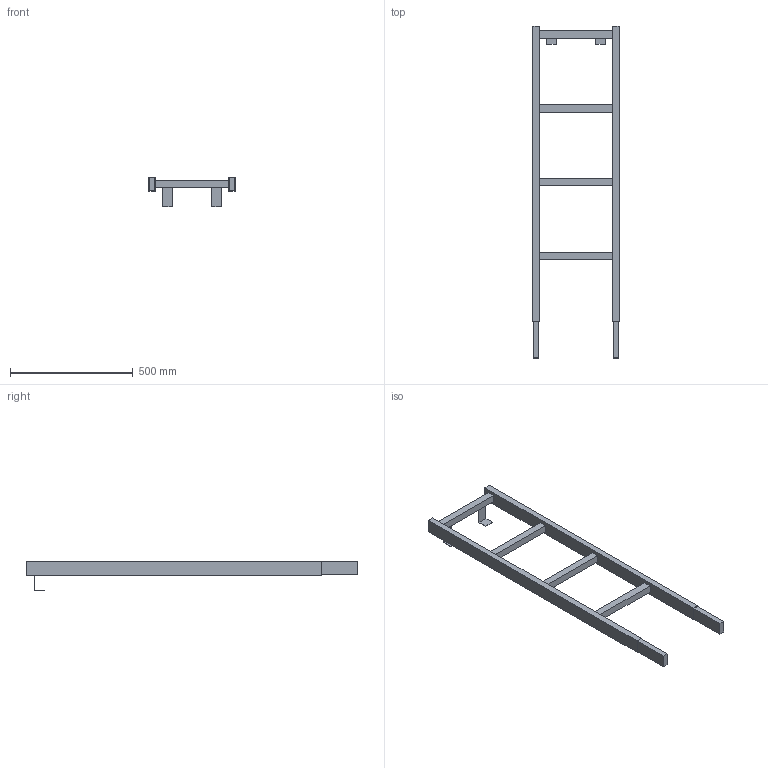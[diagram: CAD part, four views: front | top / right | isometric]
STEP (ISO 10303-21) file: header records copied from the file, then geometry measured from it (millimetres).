
FILE_DESCRIPTION((''),'2;1');
FILE_NAME('52331988','2024-12-18T10:43:49',('wep'),('HUBER SE'),'CREO PARAMETRIC BY PTC INC, 2022162','CREO PARAMETRIC BY PTC INC, 2022162','');
FILE_SCHEMA(('AUTOMOTIVE_DESIGN { 1 0 10303 214 1 1 1 1 }'));
Length unit declared in the file: millimetre
Products named in the file (1): 52331988
Bounding box: 350 x 1350 x 121.5 mm (x, y, z)
Volume: 4852460 mm3; surface area: 599988 mm2
Topology: 1 solids, 1 shells, 52 faces, 132 edges, 88 vertices
Faces by surface type: plane 52
Entity records: 2117 total; most frequent: CARTESIAN_POINT 274, ORIENTED_EDGE 264, DIRECTION 236, VECTOR 132, LINE 132, EDGE_CURVE 132, COLOUR_RGB 106, VERTEX_POINT 88
